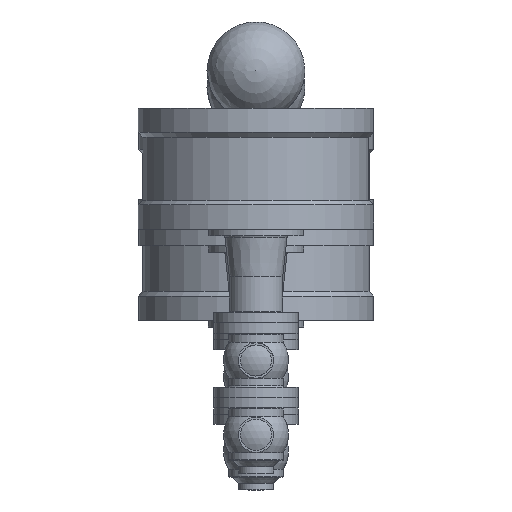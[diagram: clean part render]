
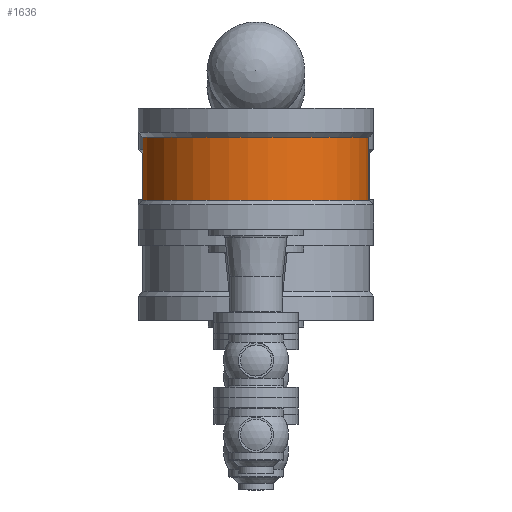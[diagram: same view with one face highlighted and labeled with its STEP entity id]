
A CAD part, front view. The second image highlights one B-rep face of the part: STEP entity #1636.
In plain terms, the highlighted cylindrical face has radius 167 mm (diameter 334 mm), a full revolution.
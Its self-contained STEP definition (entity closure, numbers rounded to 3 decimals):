
#303=FACE_OUTER_BOUND('',#416,.T.);
#416=EDGE_LOOP('',(#1366,#1367,#1368,#1369,#1370,#1371));
#492=LINE('',#3070,#535);
#535=VECTOR('',#2497,167.);
#658=CIRCLE('',#1991,167.);
#659=CIRCLE('',#1992,167.);
#660=CIRCLE('',#1994,167.);
#661=CIRCLE('',#1995,167.);
#818=VERTEX_POINT('',#3060);
#819=VERTEX_POINT('',#3061);
#820=VERTEX_POINT('',#3066);
#821=VERTEX_POINT('',#3067);
#1014=EDGE_CURVE('',#818,#819,#658,.T.);
#1015=EDGE_CURVE('',#819,#818,#659,.T.);
#1017=EDGE_CURVE('',#820,#821,#660,.T.);
#1018=EDGE_CURVE('',#821,#820,#661,.T.);
#1019=EDGE_CURVE('',#821,#819,#492,.T.);
#1366=ORIENTED_EDGE('',*,*,#1017,.F.);
#1367=ORIENTED_EDGE('',*,*,#1018,.F.);
#1368=ORIENTED_EDGE('',*,*,#1019,.T.);
#1369=ORIENTED_EDGE('',*,*,#1015,.T.);
#1370=ORIENTED_EDGE('',*,*,#1014,.T.);
#1371=ORIENTED_EDGE('',*,*,#1019,.F.);
#1562=CYLINDRICAL_SURFACE('',#1993,167.);
#1636=ADVANCED_FACE('',(#303),#1562,.T.);
#1991=AXIS2_PLACEMENT_3D('',#3062,#2486,#2487);
#1992=AXIS2_PLACEMENT_3D('',#3063,#2488,#2489);
#1993=AXIS2_PLACEMENT_3D('',#3065,#2491,#2492);
#1994=AXIS2_PLACEMENT_3D('',#3068,#2493,#2494);
#1995=AXIS2_PLACEMENT_3D('',#3069,#2495,#2496);
#2486=DIRECTION('center_axis',(-1.,0.,0.));
#2487=DIRECTION('ref_axis',(0.,0.,1.));
#2488=DIRECTION('center_axis',(-1.,0.,0.));
#2489=DIRECTION('ref_axis',(0.,0.,1.));
#2491=DIRECTION('center_axis',(-1.,0.,0.));
#2492=DIRECTION('ref_axis',(0.,0.,1.));
#2493=DIRECTION('center_axis',(-1.,0.,0.));
#2494=DIRECTION('ref_axis',(0.,0.,1.));
#2495=DIRECTION('center_axis',(-1.,0.,0.));
#2496=DIRECTION('ref_axis',(0.,0.,1.));
#2497=DIRECTION('',(1.,0.,0.));
#3060=CARTESIAN_POINT('',(-45.5,0.,167.));
#3061=CARTESIAN_POINT('',(-45.5,0.,-167.));
#3062=CARTESIAN_POINT('Origin',(-45.5,0.,0.));
#3063=CARTESIAN_POINT('Origin',(-45.5,0.,0.));
#3065=CARTESIAN_POINT('Origin',(-92.,0.,0.));
#3066=CARTESIAN_POINT('',(-138.5,0.,167.));
#3067=CARTESIAN_POINT('',(-138.5,0.,-167.));
#3068=CARTESIAN_POINT('Origin',(-138.5,0.,0.));
#3069=CARTESIAN_POINT('Origin',(-138.5,0.,0.));
#3070=CARTESIAN_POINT('',(-92.,0.,-167.));
